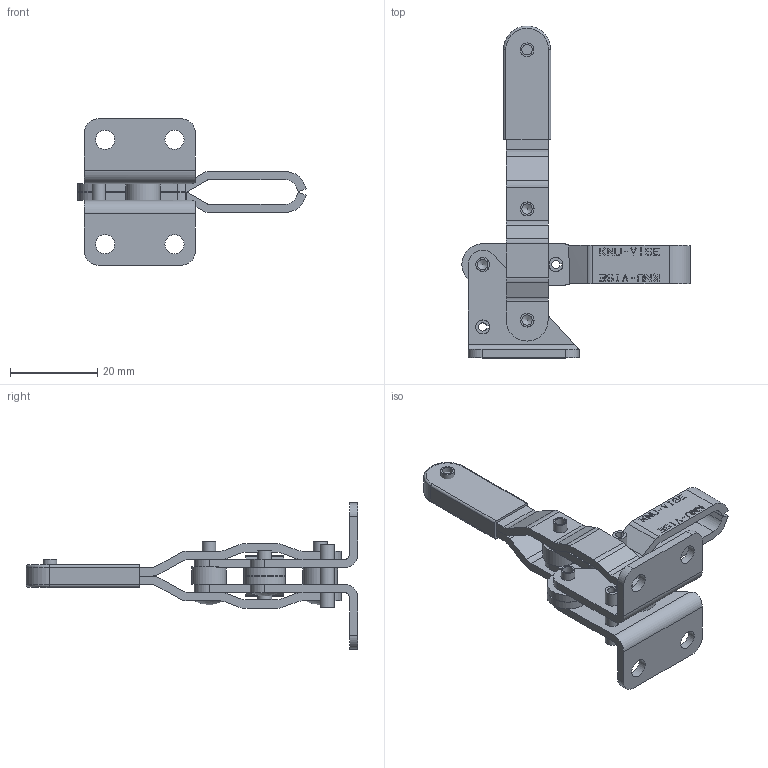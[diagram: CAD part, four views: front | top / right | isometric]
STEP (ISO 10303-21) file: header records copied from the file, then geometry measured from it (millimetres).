
FILE_DESCRIPTION(/* description */ (''),/* implementation_level */ '2;1');
FILE_NAME(/* name */ 'C:\Users\Nick\Desktop\v-120\3D\v-120.stp',/* time_stamp */ '2015-10-02T16:48:09-04:00',/* author */ ('Nick'),/* organization */ (''),/* preprocessor_version */ 'ST-DEVELOPER v16.1',/* originating_system */ 'AutoCAD Mechanical',/* authorisation */ '');
FILE_SCHEMA (('AUTOMOTIVE_DESIGN { 1 0 10303 214 3 1 1 }'));
Length unit declared in the file: inch
Products named in the file (1): Product
Bounding box: 52.18 x 75.86 x 33.43 mm (x, y, z)
Volume: 8305.5 mm3; surface area: 12818.3 mm2
Topology: 17 solids, 17 shells, 639 faces, 1694 edges, 1130 vertices
Faces by surface type: plane 515, cylinder 110, torus 6, sphere 4, cone 4
Full cylindrical faces by diameter (mm): 2.381 x4, 3.124 x4, 3.2 x22, 3.277 x2, 4.369 x4, 7.938 x2
Entity records: 19384 total; most frequent: CARTESIAN_POINT 3414, ORIENTED_EDGE 3264, DIRECTION 3136, EDGE_CURVE 1632, LINE 1392, VECTOR 1392, VERTEX_POINT 1114, AXIS2_PLACEMENT_3D 872
